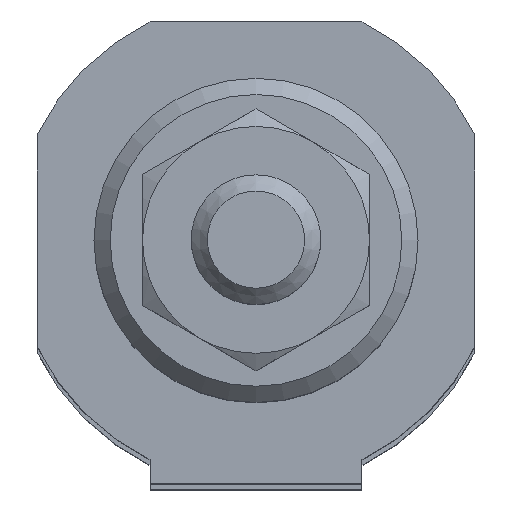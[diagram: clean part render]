
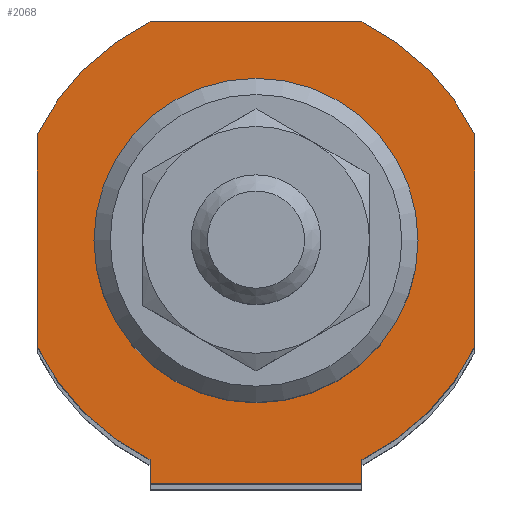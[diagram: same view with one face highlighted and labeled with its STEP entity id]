
A CAD part, top view. The second image highlights one B-rep face of the part: STEP entity #2068.
In plain terms, the highlighted planar face has unit normal (0, 0, 1).
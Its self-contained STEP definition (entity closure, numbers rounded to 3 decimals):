
#1123=CARTESIAN_POINT('',(6.538,-15.0,234.0));
#1124=VERTEX_POINT('',#1123);
#1125=CARTESIAN_POINT('',(-6.538,-15.0,234.0));
#1126=VERTEX_POINT('',#1125);
#1127=CARTESIAN_POINT('',(6.538,-15.0,234.0));
#1128=DIRECTION('',(-1.0,0.0,0.0));
#1129=VECTOR('',#1128,13.077);
#1130=LINE('',#1127,#1129);
#1131=EDGE_CURVE('',#1124,#1126,#1130,.T.);
#1420=CARTESIAN_POINT('',(-6.538,-13.5,234.0));
#1421=VERTEX_POINT('',#1420);
#1435=CARTESIAN_POINT('',(-6.538,-13.5,234.0));
#1436=DIRECTION('',(0.0,-1.0,0.0));
#1437=VECTOR('',#1436,1.5);
#1438=LINE('',#1435,#1437);
#1439=EDGE_CURVE('',#1421,#1126,#1438,.T.);
#1451=CARTESIAN_POINT('',(6.538,-13.5,234.0));
#1452=VERTEX_POINT('',#1451);
#1459=CARTESIAN_POINT('',(6.538,-13.5,234.0));
#1460=DIRECTION('',(0.0,-1.0,0.0));
#1461=VECTOR('',#1460,1.5);
#1462=LINE('',#1459,#1461);
#1463=EDGE_CURVE('',#1452,#1124,#1462,.T.);
#1788=CARTESIAN_POINT('',(10.0,0.,234.0));
#1789=VERTEX_POINT('',#1788);
#1790=CARTESIAN_POINT('',(0.,0.,234.0));
#1791=DIRECTION('',(0.0,0.0,-1.0));
#1792=DIRECTION('',(-1.0,0.0,0.0));
#1793=AXIS2_PLACEMENT_3D('',#1790,#1791,#1792);
#1794=CIRCLE('',#1793,10.0);
#1795=EDGE_CURVE('',#1789,#1789,#1794,.T.);
#1888=CARTESIAN_POINT('',(6.538,13.5,234.0));
#1889=VERTEX_POINT('',#1888);
#1890=CARTESIAN_POINT('',(13.5,6.538,234.0));
#1891=VERTEX_POINT('',#1890);
#1892=CARTESIAN_POINT('',(0.0,0.0,234.0));
#1893=DIRECTION('',(0.0,0.0,-1.));
#1894=DIRECTION('',(-0.9,-0.436,0.0));
#1895=AXIS2_PLACEMENT_3D('',#1892,#1893,#1894);
#1896=CIRCLE('',#1895,15.);
#1897=EDGE_CURVE('',#1889,#1891,#1896,.T.);
#1920=CARTESIAN_POINT('',(13.5,-6.538,234.0));
#1921=VERTEX_POINT('',#1920);
#1922=CARTESIAN_POINT('',(13.5,6.538,234.0));
#1923=DIRECTION('',(0.0,-1.0,0.0));
#1924=VECTOR('',#1923,13.077);
#1925=LINE('',#1922,#1924);
#1926=EDGE_CURVE('',#1891,#1921,#1925,.T.);
#1944=CARTESIAN_POINT('',(0.0,0.0,234.0));
#1945=DIRECTION('',(0.0,0.0,-1.));
#1946=DIRECTION('',(-0.436,0.9,0.0));
#1947=AXIS2_PLACEMENT_3D('',#1944,#1945,#1946);
#1948=CIRCLE('',#1947,15.);
#1949=EDGE_CURVE('',#1921,#1452,#1948,.T.);
#1962=CARTESIAN_POINT('',(-13.5,-6.538,234.0));
#1963=VERTEX_POINT('',#1962);
#1964=CARTESIAN_POINT('',(0.0,0.0,234.0));
#1965=DIRECTION('',(0.0,0.0,-1.));
#1966=DIRECTION('',(0.9,0.436,0.0));
#1967=AXIS2_PLACEMENT_3D('',#1964,#1965,#1966);
#1968=CIRCLE('',#1967,15.);
#1969=EDGE_CURVE('',#1421,#1963,#1968,.T.);
#1987=CARTESIAN_POINT('',(-13.5,6.538,234.0));
#1988=VERTEX_POINT('',#1987);
#1989=CARTESIAN_POINT('',(-13.5,-6.538,234.0));
#1990=DIRECTION('',(0.0,1.0,0.0));
#1991=VECTOR('',#1990,13.077);
#1992=LINE('',#1989,#1991);
#1993=EDGE_CURVE('',#1963,#1988,#1992,.T.);
#2011=CARTESIAN_POINT('',(-6.538,13.5,234.0));
#2012=VERTEX_POINT('',#2011);
#2013=CARTESIAN_POINT('',(0.0,0.0,234.0));
#2014=DIRECTION('',(0.0,0.0,-1.));
#2015=DIRECTION('',(0.436,-0.9,0.0));
#2016=AXIS2_PLACEMENT_3D('',#2013,#2014,#2015);
#2017=CIRCLE('',#2016,15.);
#2018=EDGE_CURVE('',#1988,#2012,#2017,.T.);
#2036=CARTESIAN_POINT('',(-6.538,13.5,234.0));
#2037=DIRECTION('',(1.0,0.0,0.0));
#2038=VECTOR('',#2037,13.077);
#2039=LINE('',#2036,#2038);
#2040=EDGE_CURVE('',#2012,#1889,#2039,.T.);
#2048=CARTESIAN_POINT('',(0.,0.0,234.0));
#2049=DIRECTION('',(0.0,0.0,1.0));
#2050=DIRECTION('',(1.0,0.0,0.0));
#2051=AXIS2_PLACEMENT_3D('',#2048,#2049,#2050);
#2052=PLANE('',#2051);
#2053=ORIENTED_EDGE('',*,*,#1897,.F.);
#2054=ORIENTED_EDGE('',*,*,#2040,.F.);
#2055=ORIENTED_EDGE('',*,*,#2018,.F.);
#2056=ORIENTED_EDGE('',*,*,#1993,.F.);
#2057=ORIENTED_EDGE('',*,*,#1969,.F.);
#2058=ORIENTED_EDGE('',*,*,#1439,.T.);
#2059=ORIENTED_EDGE('',*,*,#1131,.F.);
#2060=ORIENTED_EDGE('',*,*,#1463,.F.);
#2061=ORIENTED_EDGE('',*,*,#1949,.F.);
#2062=ORIENTED_EDGE('',*,*,#1926,.F.);
#2063=EDGE_LOOP('',(#2053,#2054,#2055,#2056,#2057,#2058,#2059,#2060,#2061,#2062));
#2064=FACE_OUTER_BOUND('',#2063,.T.);
#2065=ORIENTED_EDGE('',*,*,#1795,.T.);
#2066=EDGE_LOOP('',(#2065));
#2067=FACE_BOUND('',#2066,.T.);
#2068=ADVANCED_FACE('',(#2064,#2067),#2052,.T.);
